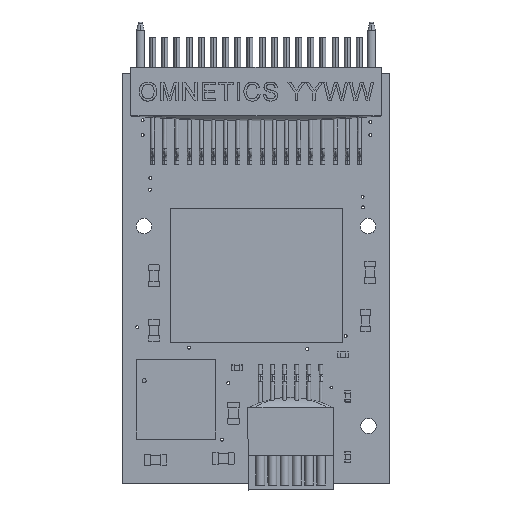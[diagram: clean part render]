
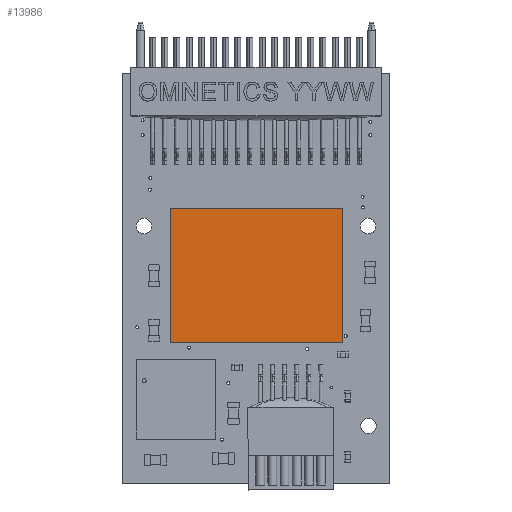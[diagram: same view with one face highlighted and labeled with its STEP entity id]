
A CAD part, top view. The second image highlights one B-rep face of the part: STEP entity #13986.
In plain terms, the highlighted planar face has unit normal (0, 0, 1).
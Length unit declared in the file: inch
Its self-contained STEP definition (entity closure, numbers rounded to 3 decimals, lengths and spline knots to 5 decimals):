
#2471 = LINE ( 'NONE', #20004, #9130 ) ;
#4575 = DIRECTION ( 'NONE',  ( 1., 0., 0. ) ) ;
#5285 = EDGE_CURVE ( 'NONE', #19473, #47692, #2471, .T. ) ;
#9130 = VECTOR ( 'NONE', #20601, 39.37008 ) ;
#9906 = CARTESIAN_POINT ( 'NONE',  ( 0.17717, 0.1378, 0.04724 ) ) ;
#11711 = CARTESIAN_POINT ( 'NONE',  ( 0.17717, -0.1378, 0.04724 ) ) ;
#12079 = EDGE_CURVE ( 'NONE', #47692, #35273, #22118, .T. ) ;
#12084 = EDGE_LOOP ( 'NONE', ( #48952, #14036, #24315, #30565 ) ) ;
#12788 = CARTESIAN_POINT ( 'NONE',  ( 0.17717, -0.1378, 0.04724 ) ) ;
#13986 = ADVANCED_FACE ( 'NONE', ( #47097 ), #52447, .T. ) ;
#14036 = ORIENTED_EDGE ( 'NONE', *, *, #15729, .T. ) ;
#14717 = CARTESIAN_POINT ( 'NONE',  ( -0.17717, -0.1378, 0.04724 ) ) ;
#15547 = CARTESIAN_POINT ( 'NONE',  ( 0., 0., 0.04724 ) ) ;
#15703 = LINE ( 'NONE', #46966, #57320 ) ;
#15729 = EDGE_CURVE ( 'NONE', #47909, #19473, #15703, .T. ) ;
#18205 = CARTESIAN_POINT ( 'NONE',  ( -0.17717, -0.1378, 0.04724 ) ) ;
#19473 = VERTEX_POINT ( 'NONE', #38750 ) ;
#20004 = CARTESIAN_POINT ( 'NONE',  ( -0.17717, 0.1378, 0.04724 ) ) ;
#20601 = DIRECTION ( 'NONE',  ( 0., -1., 0. ) ) ;
#22118 = LINE ( 'NONE', #18205, #31221 ) ;
#24315 = ORIENTED_EDGE ( 'NONE', *, *, #5285, .T. ) ;
#30565 = ORIENTED_EDGE ( 'NONE', *, *, #12079, .T. ) ;
#30887 = DIRECTION ( 'NONE',  ( 0., 1., 0. ) ) ;
#31221 = VECTOR ( 'NONE', #4575, 39.37008 ) ;
#33706 = DIRECTION ( 'NONE',  ( 1., 0., 0. ) ) ;
#35273 = VERTEX_POINT ( 'NONE', #11711 ) ;
#36197 = AXIS2_PLACEMENT_3D ( 'NONE', #15547, #42359, #33706 ) ;
#38043 = DIRECTION ( 'NONE',  ( -1., 0., 0. ) ) ;
#38750 = CARTESIAN_POINT ( 'NONE',  ( -0.17717, 0.1378, 0.04724 ) ) ;
#42359 = DIRECTION ( 'NONE',  ( 0., 0., 1. ) ) ;
#44883 = LINE ( 'NONE', #12788, #52999 ) ;
#46966 = CARTESIAN_POINT ( 'NONE',  ( 0.17717, 0.1378, 0.04724 ) ) ;
#47097 = FACE_OUTER_BOUND ( 'NONE', #12084, .T. ) ;
#47692 = VERTEX_POINT ( 'NONE', #14717 ) ;
#47909 = VERTEX_POINT ( 'NONE', #9906 ) ;
#48952 = ORIENTED_EDGE ( 'NONE', *, *, #58552, .T. ) ;
#52447 = PLANE ( 'NONE',  #36197 ) ;
#52999 = VECTOR ( 'NONE', #30887, 39.37008 ) ;
#57320 = VECTOR ( 'NONE', #38043, 39.37008 ) ;
#58552 = EDGE_CURVE ( 'NONE', #35273, #47909, #44883, .T. ) ;
